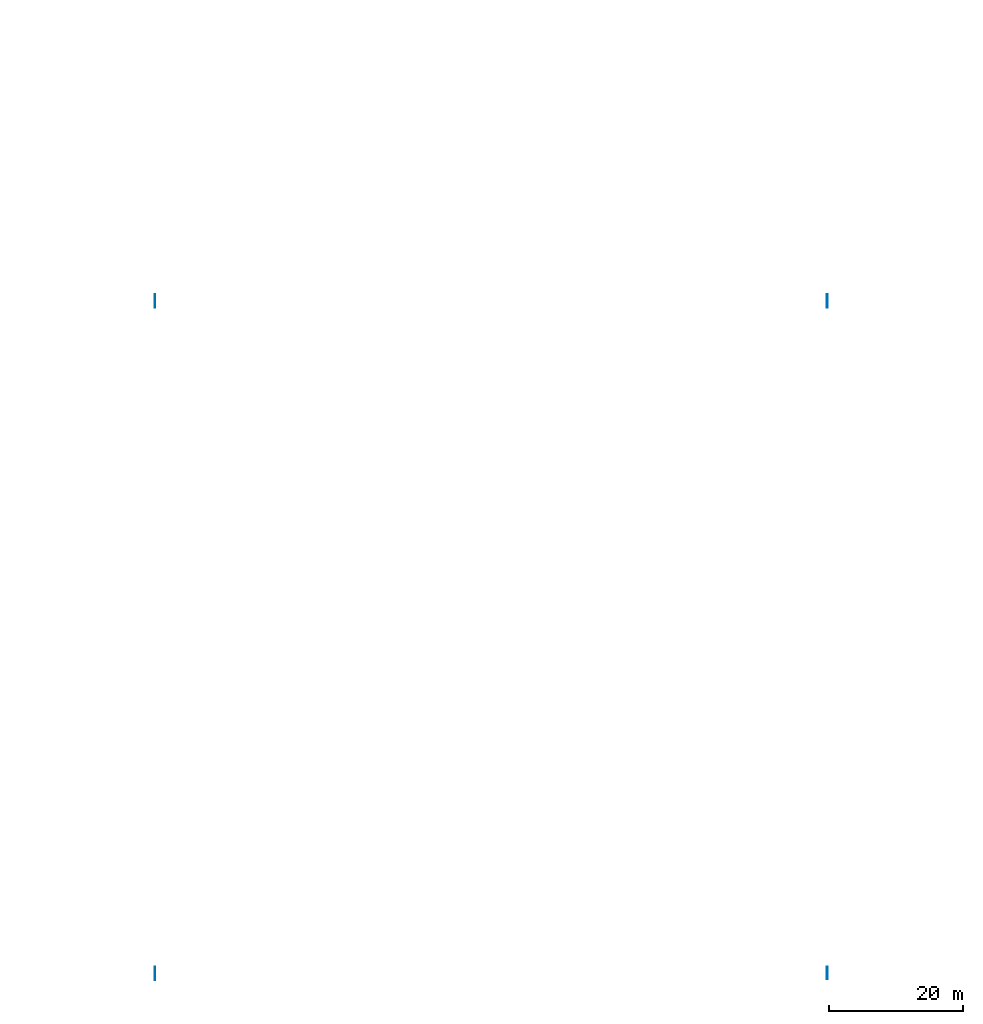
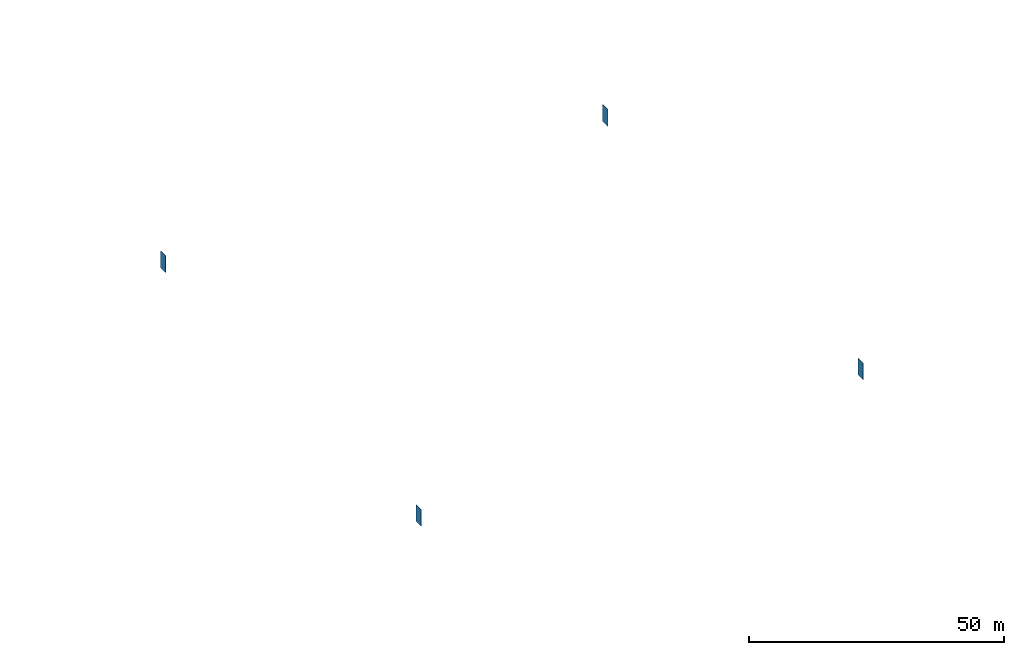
# One storey, part 55 of 164: 4 walls.
"""IFC2X3 building model written with IfcOpenShell, lengths in millimetres."""

from ifc_helpers import new_model, entity, si_unit, converted_unit, derived_unit, direction, frame, frame_2d, origin, place, context, subcontext, project, spatial, rectangle, extrude, material, layer, layer_set, layer_usage, type_object, element, save


model = new_model("IFC2X3")

# Units and contexts
model_context = context("Model", 3, precision=0.01, world=origin(), true_north=direction((6.12303176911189e-17, 1.0)))
body_context = subcontext(model_context, "Body", "Model", "MODEL_VIEW")
ifc_project = project(units=[si_unit("LENGTHUNIT", "METRE", prefix="MILLI"), si_unit("AREAUNIT", "SQUARE_METRE"), si_unit("VOLUMEUNIT", "CUBIC_METRE"), converted_unit("PLANEANGLEUNIT", "DEGREE", entity("IfcRatioMeasure", 0.0174532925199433), si_unit("PLANEANGLEUNIT", "RADIAN"), dimensions=[0, 0, 0, 0, 0, 0, 0]), si_unit("MASSUNIT", "GRAM", prefix="KILO"), derived_unit("MASSDENSITYUNIT", [(si_unit("MASSUNIT", "GRAM", prefix="KILO"), 1), (si_unit("LENGTHUNIT", "METRE"), -3)]), derived_unit("MOMENTOFINERTIAUNIT", [(si_unit("LENGTHUNIT", "METRE"), 4)]), si_unit("TIMEUNIT", "SECOND"), si_unit("FREQUENCYUNIT", "HERTZ"), si_unit("THERMODYNAMICTEMPERATUREUNIT", "DEGREE_CELSIUS"), derived_unit("THERMALTRANSMITTANCEUNIT", [(si_unit("MASSUNIT", "GRAM", prefix="KILO"), 1), (si_unit("THERMODYNAMICTEMPERATUREUNIT", "KELVIN"), -1), (si_unit("TIMEUNIT", "SECOND"), -3)]), derived_unit("VOLUMETRICFLOWRATEUNIT", [(si_unit("LENGTHUNIT", "METRE"), 3), (si_unit("TIMEUNIT", "SECOND"), -1)]), si_unit("ELECTRICCURRENTUNIT", "AMPERE"), si_unit("ELECTRICVOLTAGEUNIT", "VOLT"), si_unit("POWERUNIT", "WATT"), si_unit("FORCEUNIT", "NEWTON", prefix="KILO"), si_unit("ILLUMINANCEUNIT", "LUX"), si_unit("LUMINOUSFLUXUNIT", "LUMEN"), si_unit("LUMINOUSINTENSITYUNIT", "CANDELA"), derived_unit("USERDEFINED", [(si_unit("MASSUNIT", "GRAM", prefix="KILO"), -1), (si_unit("LENGTHUNIT", "METRE"), -2), (si_unit("TIMEUNIT", "SECOND"), 3), (si_unit("LUMINOUSFLUXUNIT", "LUMEN"), 1)]), derived_unit("LINEARVELOCITYUNIT", [(si_unit("LENGTHUNIT", "METRE"), 1), (si_unit("TIMEUNIT", "SECOND"), -1)]), si_unit("PRESSUREUNIT", "PASCAL"), derived_unit("USERDEFINED", [(si_unit("LENGTHUNIT", "METRE"), -2), (si_unit("MASSUNIT", "GRAM", prefix="KILO"), 1), (si_unit("TIMEUNIT", "SECOND"), -2)]), derived_unit("LINEARFORCEUNIT", [(si_unit("MASSUNIT", "GRAM", prefix="KILO"), 1), (si_unit("LENGTHUNIT", "METRE"), 1), (si_unit("TIMEUNIT", "SECOND"), -2), (si_unit("LENGTHUNIT", "METRE"), -1)]), derived_unit("PLANARFORCEUNIT", [(si_unit("MASSUNIT", "GRAM", prefix="KILO"), 1), (si_unit("LENGTHUNIT", "METRE"), 1), (si_unit("TIMEUNIT", "SECOND"), -2), (si_unit("LENGTHUNIT", "METRE"), -2)])], contexts=[model_context])

# Site, building, storey
site_placement = place(None, origin())
site = spatial("IfcSite", under=ifc_project, at=site_placement, Name="Default", CompositionType="ELEMENT")
building_placement = place(site_placement, origin())
building = spatial("IfcBuilding", under=site, at=building_placement, CompositionType="ELEMENT")
storey_placement = place(building_placement, origin())
storey = spatial("IfcBuildingStorey", under=building, at=storey_placement, Name="Level 1", CompositionType="ELEMENT", Elevation=0.0)

# Walls
ifc_material = material(Name="Default Wall")
ifc_layer = layer(ifc_material, 100.0)
ifc_layer_set = layer_set([ifc_layer], Name="Basic Wall:Generic - 100mm")
ifc_layer_usage_1 = layer_usage(ifc_layer_set, "AXIS2", "NEGATIVE", 50.0)
wall_type = type_object("IfcWallType", Name="Basic Wall:Generic - 100mm", PredefinedType="STANDARD", material=ifc_layer_set)
wall_1_placement = place(storey_placement, frame((1100050.0, 1000.0, 0.0), z_axis=(0.0, 0.0, 1.0), x_axis=(0.0, -1.0, 0.0)))
element("IfcWallStandardCase", 1, at=wall_1_placement, inside=storey, type_object=wall_type, material=ifc_layer_usage_1, Name="Basic Wall:Generic - 100mm", ObjectType="Basic Wall:Generic - 100mm", context=body_context, shape_type="SweptSolid", body=[
    extrude(rectangle(XDim=2000.0, YDim=100.000000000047, at=frame_2d((1000.0, 1.60582658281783e-12), x_axis=(-1.0, 0.0))), origin(), (0.0, 0.0, 1.0), 4000.0),
])
ifc_layer_usage_2 = layer_usage(ifc_layer_set, "AXIS2", "NEGATIVE", 50.0)
wall_2_placement = place(storey_placement, frame((1200050.0, 1000.0, 0.0), z_axis=(0.0, 0.0, 1.0), x_axis=(0.0, -1.0, 0.0)))
element("IfcWallStandardCase", 2, at=wall_2_placement, inside=storey, type_object=wall_type, material=ifc_layer_usage_2, Name="Basic Wall:Generic - 100mm", ObjectType="Basic Wall:Generic - 100mm", context=body_context, shape_type="SweptSolid", body=[
    extrude(rectangle(XDim=2000.0, YDim=100.000000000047, at=frame_2d((1000.0, 1.60582658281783e-12), x_axis=(-1.0, 0.0))), origin(), (0.0, 0.0, 1.0), 4000.0),
])
ifc_layer_usage_3 = layer_usage(ifc_layer_set, "AXIS2", "NEGATIVE", 50.0)
wall_3_placement = place(storey_placement, frame((1100050.0, 101000.0, 0.0), z_axis=(0.0, 0.0, 1.0), x_axis=(0.0, -1.0, 0.0)))
element("IfcWallStandardCase", 3, at=wall_3_placement, inside=storey, type_object=wall_type, material=ifc_layer_usage_3, Name="Basic Wall:Generic - 100mm", ObjectType="Basic Wall:Generic - 100mm", context=body_context, shape_type="SweptSolid", body=[
    extrude(rectangle(XDim=2000.0, YDim=100.000000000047, at=frame_2d((999.999999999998, 1.60582658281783e-12), x_axis=(-1.0, 0.0))), origin(), (0.0, 0.0, 1.0), 4000.0),
])
ifc_layer_usage_4 = layer_usage(ifc_layer_set, "AXIS2", "NEGATIVE", 50.0)
wall_4_placement = place(storey_placement, frame((1200050.0, 101000.0, 0.0), z_axis=(0.0, 0.0, 1.0), x_axis=(0.0, -1.0, 0.0)))
element("IfcWallStandardCase", 4, at=wall_4_placement, inside=storey, type_object=wall_type, material=ifc_layer_usage_4, Name="Basic Wall:Generic - 100mm", ObjectType="Basic Wall:Generic - 100mm", context=body_context, shape_type="SweptSolid", body=[
    extrude(rectangle(XDim=2000.0, YDim=100.000000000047, at=frame_2d((999.999999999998, 1.60582658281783e-12), x_axis=(-1.0, 0.0))), origin(), (0.0, 0.0, 1.0), 4000.0),
])

save(model, "model.ifc")
